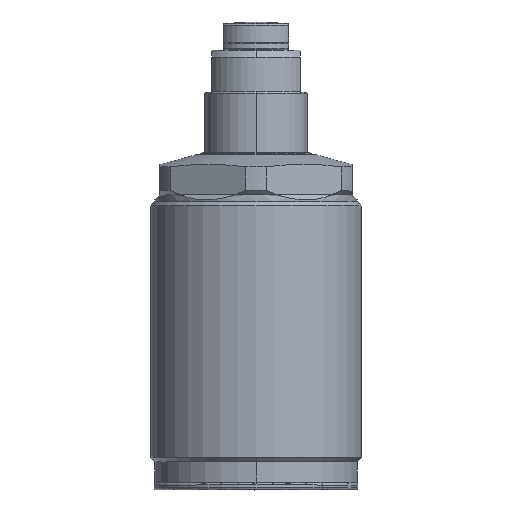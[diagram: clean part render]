
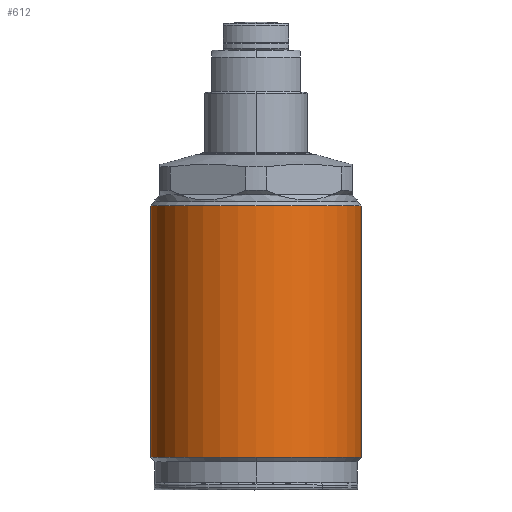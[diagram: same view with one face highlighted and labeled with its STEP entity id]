
A CAD part, top view. The second image highlights one B-rep face of the part: STEP entity #612.
In plain terms, the highlighted cylindrical face has radius 22.5 mm (diameter 45 mm), a full revolution.
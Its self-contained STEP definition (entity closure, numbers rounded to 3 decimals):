
#290=FACE_BOUND('',#920,.T.);
#291=FACE_BOUND('',#921,.T.);
#341=CYLINDRICAL_SURFACE('',#2513,22.5);
#410=LINE('',#4095,#491);
#411=LINE('',#4100,#492);
#491=VECTOR('',#3157,1.);
#492=VECTOR('',#3160,1.);
#612=ADVANCED_FACE('',(#290,#291),#341,.T.);
#920=EDGE_LOOP('',(#1419));
#921=EDGE_LOOP('',(#1420,#1421,#1422,#1423,#1424,#1425));
#1419=ORIENTED_EDGE('',*,*,#2020,.T.);
#1420=ORIENTED_EDGE('',*,*,#2021,.T.);
#1421=ORIENTED_EDGE('',*,*,#2021,.F.);
#1422=ORIENTED_EDGE('',*,*,#2022,.F.);
#1423=ORIENTED_EDGE('',*,*,#2023,.T.);
#1424=ORIENTED_EDGE('',*,*,#2023,.F.);
#1425=ORIENTED_EDGE('',*,*,#2024,.F.);
#1742=VERTEX_POINT('',#4094);
#1743=VERTEX_POINT('',#4096);
#1744=VERTEX_POINT('',#4097);
#1745=VERTEX_POINT('',#4099);
#1746=VERTEX_POINT('',#4101);
#2020=EDGE_CURVE('',#1742,#1742,#2227,.T.);
#2021=EDGE_CURVE('',#1743,#1744,#410,.T.);
#2022=EDGE_CURVE('',#1745,#1743,#2228,.T.);
#2023=EDGE_CURVE('',#1745,#1746,#411,.T.);
#2024=EDGE_CURVE('',#1743,#1745,#2229,.T.);
#2227=CIRCLE('',#2510,22.5);
#2228=CIRCLE('',#2511,22.5);
#2229=CIRCLE('',#2512,22.5);
#2510=AXIS2_PLACEMENT_3D('',#4093,#3155,#3156);
#2511=AXIS2_PLACEMENT_3D('',#4098,#3158,#3159);
#2512=AXIS2_PLACEMENT_3D('',#4102,#3161,#3162);
#2513=AXIS2_PLACEMENT_3D('',#4103,#3163,#3164);
#3155=DIRECTION('',(0.,-1.,0.));
#3156=DIRECTION('',(0.,0.,-1.));
#3157=DIRECTION('',(0.,1.,0.));
#3158=DIRECTION('',(0.,-1.,0.));
#3159=DIRECTION('',(0.,0.,-1.));
#3160=DIRECTION('',(0.,1.,0.));
#3161=DIRECTION('',(0.,-1.,0.));
#3162=DIRECTION('',(0.,0.,-1.));
#3163=DIRECTION('',(0.,-1.,0.));
#3164=DIRECTION('',(0.,0.,-1.));
#4093=CARTESIAN_POINT('',(0.,58.,0.));
#4094=CARTESIAN_POINT('',(0.,58.,-22.5));
#4095=CARTESIAN_POINT('',(0.,-1.3,22.5));
#4096=CARTESIAN_POINT('',(0.,4.3,22.5));
#4097=CARTESIAN_POINT('',(0.,52.111,22.5));
#4098=CARTESIAN_POINT('',(0.,4.3,0.));
#4099=CARTESIAN_POINT('',(0.,4.3,-22.5));
#4100=CARTESIAN_POINT('',(0.,-1.3,-22.5));
#4101=CARTESIAN_POINT('',(0.,52.111,-22.5));
#4102=CARTESIAN_POINT('',(0.,4.3,0.));
#4103=CARTESIAN_POINT('',(0.,-1.3,0.));
